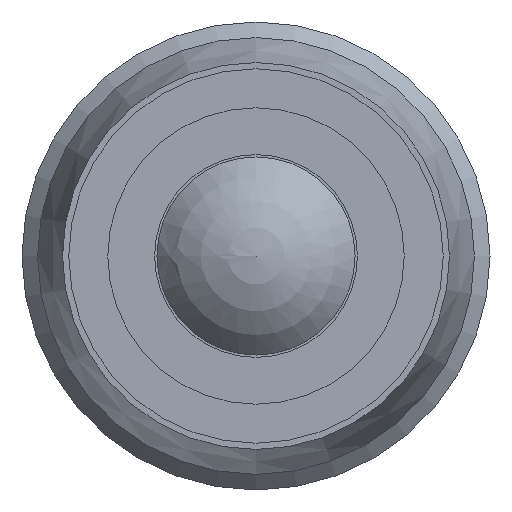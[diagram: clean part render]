
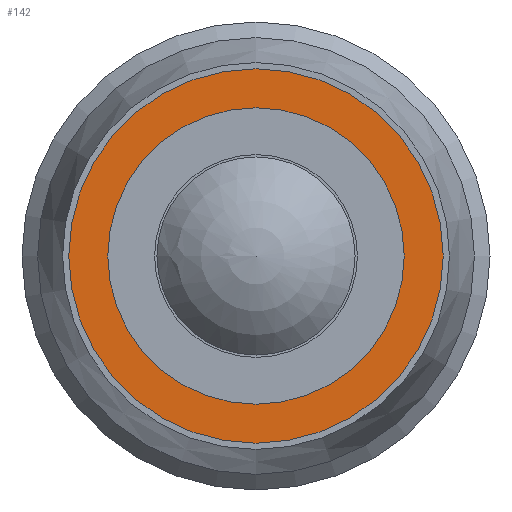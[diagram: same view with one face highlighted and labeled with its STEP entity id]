
A CAD part, left-side view. The second image highlights one B-rep face of the part: STEP entity #142.
In plain terms, the highlighted planar face has unit normal (-1, 0, 0).
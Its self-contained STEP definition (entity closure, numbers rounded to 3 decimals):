
#142 = ADVANCED_FACE( '', ( #201, #202 ), #203, .T. );
#201 = FACE_BOUND( '', #295, .T. );
#202 = FACE_OUTER_BOUND( '', #296, .T. );
#203 = PLANE( '', #297 );
#295 = EDGE_LOOP( '', ( #390 ) );
#296 = EDGE_LOOP( '', ( #391 ) );
#297 = AXIS2_PLACEMENT_3D( '', #392, #393, #394 );
#390 = ORIENTED_EDGE( '', *, *, #415, .F. );
#391 = ORIENTED_EDGE( '', *, *, #412, .F. );
#392 = CARTESIAN_POINT( '', ( 39.5, 0., 0. ) );
#393 = DIRECTION( '', ( -1., 0., 0. ) );
#394 = DIRECTION( '', ( 0., 0., -1. ) );
#412 = EDGE_CURVE( '', #446, #446, #447, .T. );
#415 = EDGE_CURVE( '', #452, #452, #453, .T. );
#446 = VERTEX_POINT( '', #484 );
#447 = CIRCLE( '', #485, 6. );
#452 = VERTEX_POINT( '', #490 );
#453 = CIRCLE( '', #491, 4.75 );
#484 = CARTESIAN_POINT( '', ( 39.5, -6., 0. ) );
#485 = AXIS2_PLACEMENT_3D( '', #537, #538, #539 );
#490 = CARTESIAN_POINT( '', ( 39.5, 0., -4.75 ) );
#491 = AXIS2_PLACEMENT_3D( '', #546, #547, #548 );
#537 = CARTESIAN_POINT( '', ( 39.5, 0., 0. ) );
#538 = DIRECTION( '', ( 1., 0., 0. ) );
#539 = DIRECTION( '', ( 0., -1., 0. ) );
#546 = CARTESIAN_POINT( '', ( 39.5, 0., 0. ) );
#547 = DIRECTION( '', ( -1., 0., 0. ) );
#548 = DIRECTION( '', ( 0., 0., -1. ) );
